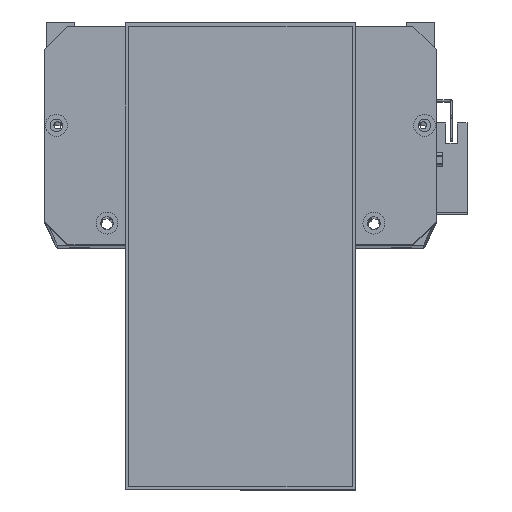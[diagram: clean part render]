
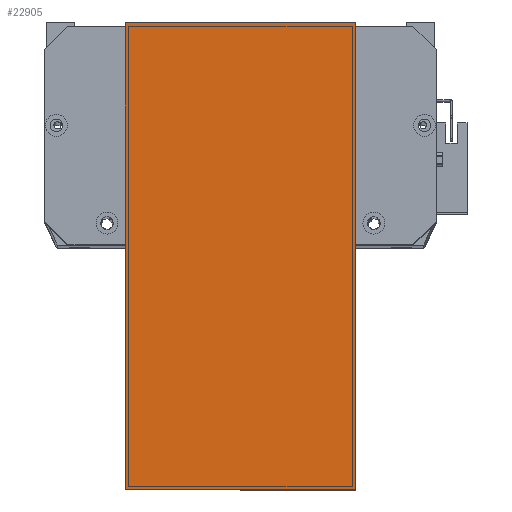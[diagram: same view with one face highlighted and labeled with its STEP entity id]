
A CAD part, top view. The second image highlights one B-rep face of the part: STEP entity #22905.
In plain terms, the highlighted planar face has unit normal (0, 0, 1) as drawn and (0, 0, -1) by its records, which use the part's own axes.
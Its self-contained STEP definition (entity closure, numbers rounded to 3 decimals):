
#293 = LINE ( 'NONE', #23659, #5422 ) ;
#1424 = DIRECTION ( 'NONE',  ( 0., -1., 0. ) ) ;
#1853 = AXIS2_PLACEMENT_3D ( 'NONE', #17090, #6282, #21441 ) ;
#2085 = CARTESIAN_POINT ( 'NONE',  ( 203., 19.5, 0. ) ) ;
#2673 = EDGE_CURVE ( 'NONE', #17460, #2747, #23515, .T. ) ;
#2747 = VERTEX_POINT ( 'NONE', #19136 ) ;
#3967 = VERTEX_POINT ( 'NONE', #2085 ) ;
#4481 = CARTESIAN_POINT ( 'NONE',  ( 0., 19.5, 0. ) ) ;
#5290 = ORIENTED_EDGE ( 'NONE', *, *, #22466, .F. ) ;
#5422 = VECTOR ( 'NONE', #10674, 1000. ) ;
#6100 = FACE_OUTER_BOUND ( 'NONE', #26954, .T. ) ;
#6225 = VECTOR ( 'NONE', #10241, 1000. ) ;
#6282 = DIRECTION ( 'NONE',  ( 0., 0., -1. ) ) ;
#6685 = DIRECTION ( 'NONE',  ( 0., 1., 0. ) ) ;
#6701 = ORIENTED_EDGE ( 'NONE', *, *, #7201, .F. ) ;
#7190 = LINE ( 'NONE', #17486, #21773 ) ;
#7201 = EDGE_CURVE ( 'NONE', #17460, #22539, #21929, .T. ) ;
#10241 = DIRECTION ( 'NONE',  ( 1., 0., 0. ) ) ;
#10674 = DIRECTION ( 'NONE',  ( 1., 0., 0. ) ) ;
#10682 = EDGE_CURVE ( 'NONE', #3967, #2747, #7190, .T. ) ;
#11192 = CARTESIAN_POINT ( 'NONE',  ( 0., 119.5, 0. ) ) ;
#12143 = ORIENTED_EDGE ( 'NONE', *, *, #10682, .F. ) ;
#14479 = CARTESIAN_POINT ( 'NONE',  ( 0., 0., 0. ) ) ;
#14508 = CARTESIAN_POINT ( 'NONE',  ( -12., 119.5, 0. ) ) ;
#14922 = PLANE ( 'NONE',  #1853 ) ;
#17090 = CARTESIAN_POINT ( 'NONE',  ( 0., 0., 0. ) ) ;
#17460 = VERTEX_POINT ( 'NONE', #11192 ) ;
#17486 = CARTESIAN_POINT ( 'NONE',  ( 203., 0., 0. ) ) ;
#19136 = CARTESIAN_POINT ( 'NONE',  ( 203., 119.5, 0. ) ) ;
#21441 = DIRECTION ( 'NONE',  ( -1., 0., 0. ) ) ;
#21773 = VECTOR ( 'NONE', #6685, 1000. ) ;
#21929 = LINE ( 'NONE', #14479, #27018 ) ;
#22466 = EDGE_CURVE ( 'NONE', #22539, #3967, #293, .T. ) ;
#22539 = VERTEX_POINT ( 'NONE', #4481 ) ;
#22905 = ADVANCED_FACE ( 'NONE', ( #6100 ), #14922, .T. ) ;
#23515 = LINE ( 'NONE', #14508, #6225 ) ;
#23659 = CARTESIAN_POINT ( 'NONE',  ( -12., 19.5, 0. ) ) ;
#23993 = ORIENTED_EDGE ( 'NONE', *, *, #2673, .T. ) ;
#26954 = EDGE_LOOP ( 'NONE', ( #5290, #6701, #23993, #12143 ) ) ;
#27018 = VECTOR ( 'NONE', #1424, 1000. ) ;
